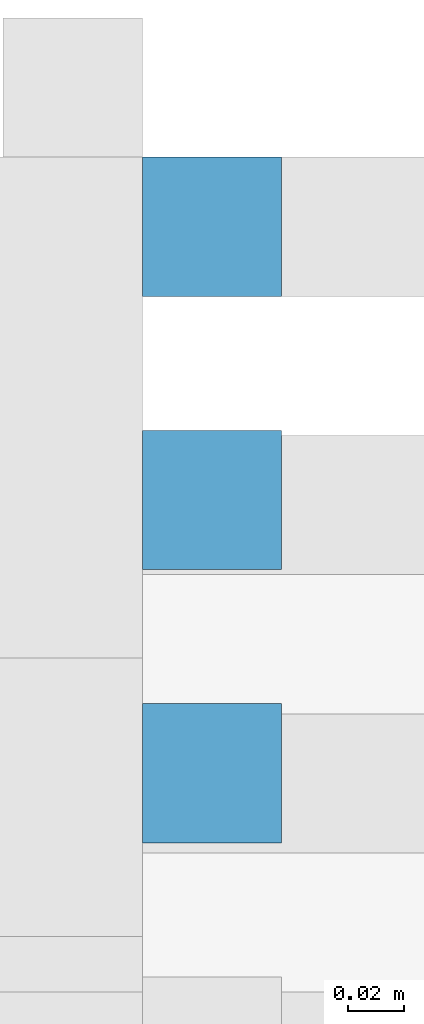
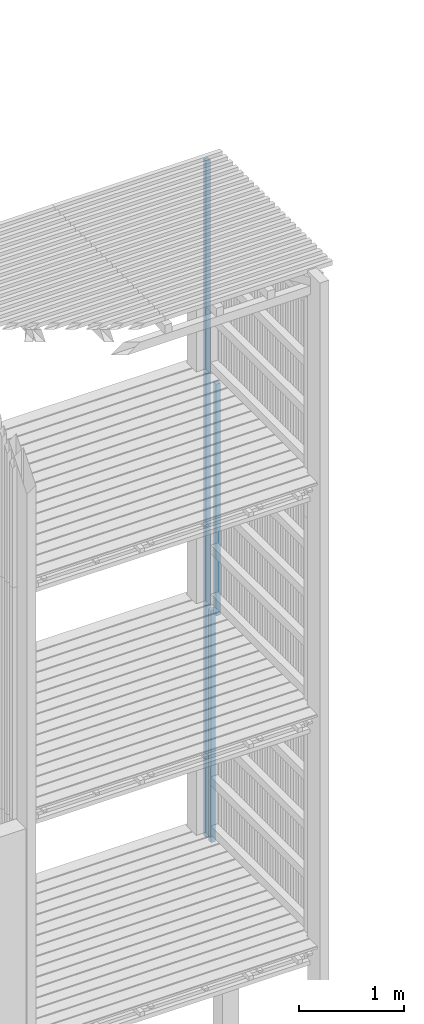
# One storey, part 83 of 182: 5 beams.
"""IFC2X3 building model written with IfcOpenShell, lengths in metres."""

from ifc_helpers import new_model, si_unit, frame, origin, place, context, project, spatial, faceted_brep, element, save


model = new_model("IFC2X3")

# Units and contexts
model_context = context("Model", 3, precision=1e-06, world=origin())
ifc_project = project(units=[si_unit("LENGTHUNIT", "METRE"), si_unit("PLANEANGLEUNIT", "RADIAN")], contexts=[model_context])

# Site, building, storey
site = spatial("IfcSite", under=ifc_project, CompositionType="ELEMENT")
building = spatial("IfcBuilding", under=site, CompositionType="ELEMENT")
storey = spatial("IfcBuildingStorey", under=building, Name="vs", CompositionType="ELEMENT", Elevation=-0.85)

# Beams
placement = place(None, origin())
beam_1_placement = place(placement, frame((26.399999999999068, 12.845077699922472, 2.575000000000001), z_axis=(-1.0, 0.0, 0.0), x_axis=(0.0, 0.0, 1.0)))
element("IfcBeam", 1, at=beam_1_placement, inside=storey, Name="Bardage", context=model_context, shape_type="Brep", body=[
    faceted_brep([(0.0, -0.025000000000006, 0.024999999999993), (0.0, 0.024999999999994, 0.024999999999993), (0.0, 0.024999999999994, -0.025000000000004), (0.0, -0.025000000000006, -0.025000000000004), (2.699961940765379, 0.024999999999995, -0.025000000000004), (2.699961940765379, 0.024999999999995, 0.024999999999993), (2.699961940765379, -0.025000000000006, 0.024999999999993), (2.699961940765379, -0.025000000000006, -0.025000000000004), (0.0, -0.025000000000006, -0.025000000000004), (0.0, 0.024999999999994, -0.025000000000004), (2.699961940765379, 0.024999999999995, -0.025000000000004), (2.699961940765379, -0.025000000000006, -0.025000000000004), (2.699961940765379, 0.024999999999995, -0.025000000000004), (0.0, 0.024999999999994, -0.025000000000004), (0.0, 0.024999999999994, 0.024999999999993), (2.699961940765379, 0.024999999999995, 0.024999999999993), (2.699961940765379, 0.024999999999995, 0.024999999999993), (0.0, 0.024999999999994, 0.024999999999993), (0.0, -0.025000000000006, 0.024999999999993), (2.699961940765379, -0.025000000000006, 0.024999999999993), (2.699961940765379, -0.025000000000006, 0.024999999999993), (0.0, -0.025000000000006, 0.024999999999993), (0.0, -0.025000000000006, -0.025000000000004), (2.699961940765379, -0.025000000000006, -0.025000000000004)], [[[0, 1, 2, 3]], [[4, 5, 6, 7]], [[8, 9, 10, 11]], [[12, 13, 14, 15]], [[16, 17, 18, 19]], [[20, 21, 22, 23]]]),
])
beam_2_placement = place(placement, frame((26.399999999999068, 12.74689588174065, 2.575000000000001), z_axis=(-1.0, 0.0, 0.0), x_axis=(0.0, 0.0, 1.0)))
element("IfcBeam", 2, at=beam_2_placement, inside=storey, Name="Bardage", context=model_context, shape_type="Brep", body=[
    faceted_brep([(0.0, -0.025000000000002, 0.024999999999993), (0.0, 0.024999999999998, 0.024999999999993), (0.0, 0.024999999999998, -0.025000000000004), (0.0, -0.025000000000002, -0.025000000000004), (2.699961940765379, 0.025000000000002, -0.025000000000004), (2.699961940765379, 0.025000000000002, 0.024999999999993), (2.699961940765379, -0.025000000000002, 0.024999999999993), (2.699961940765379, -0.025000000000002, -0.025000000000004), (0.0, -0.025000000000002, -0.025000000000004), (0.0, 0.024999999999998, -0.025000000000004), (2.699961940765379, 0.025000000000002, -0.025000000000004), (2.699961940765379, -0.025000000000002, -0.025000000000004), (2.699961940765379, 0.025000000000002, -0.025000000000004), (0.0, 0.024999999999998, -0.025000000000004), (0.0, 0.024999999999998, 0.024999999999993), (2.699961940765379, 0.025000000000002, 0.024999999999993), (2.699961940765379, 0.025000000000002, 0.024999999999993), (0.0, 0.024999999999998, 0.024999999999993), (0.0, -0.025000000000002, 0.024999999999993), (2.699961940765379, -0.025000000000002, 0.024999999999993), (2.699961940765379, -0.025000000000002, 0.024999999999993), (0.0, -0.025000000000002, 0.024999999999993), (0.0, -0.025000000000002, -0.025000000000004), (2.699961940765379, -0.025000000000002, -0.025000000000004)], [[[0, 1, 2, 3]], [[4, 5, 6, 7]], [[8, 9, 10, 11]], [[12, 13, 14, 15]], [[16, 17, 18, 19]], [[20, 21, 22, 23]]]),
])
beam_3_placement = place(placement, frame((26.399999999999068, 12.648714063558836, 5.274999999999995), z_axis=(-1.0, 0.0, 0.0), x_axis=(0.0, 0.0, 1.0)))
element("IfcBeam", 3, at=beam_3_placement, inside=storey, Name="Bardage", context=model_context, shape_type="Brep", body=[
    faceted_brep([(1e-15, -0.025000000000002, 0.024999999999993), (1e-15, 0.024999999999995, 0.024999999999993), (1e-15, 0.024999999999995, -0.025000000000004), (1e-15, -0.025000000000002, -0.025000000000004), (2.699999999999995, -0.025000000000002, -0.025000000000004), (2.699999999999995, 0.024999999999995, -0.025000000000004), (2.699999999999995, 0.024999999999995, 0.024999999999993), (2.699999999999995, -0.025000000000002, 0.024999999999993), (1e-15, -0.025000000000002, 0.024999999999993), (1e-15, -0.025000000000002, -0.025000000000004), (2.699999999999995, -0.025000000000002, -0.025000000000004), (2.699999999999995, -0.025000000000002, 0.024999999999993), (2.699999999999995, -0.025000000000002, -0.025000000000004), (1e-15, -0.025000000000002, -0.025000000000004), (1e-15, 0.024999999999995, -0.025000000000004), (2.699999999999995, 0.024999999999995, -0.025000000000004), (2.699999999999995, 0.024999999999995, -0.025000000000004), (1e-15, 0.024999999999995, -0.025000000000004), (1e-15, 0.024999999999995, 0.024999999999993), (2.699999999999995, 0.024999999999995, 0.024999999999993), (2.699999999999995, 0.024999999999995, 0.024999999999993), (1e-15, 0.024999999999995, 0.024999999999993), (1e-15, -0.025000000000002, 0.024999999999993), (2.699999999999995, -0.025000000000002, 0.024999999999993)], [[[0, 1, 2, 3]], [[4, 5, 6, 7]], [[8, 9, 10, 11]], [[12, 13, 14, 15]], [[16, 17, 18, 19]], [[20, 21, 22, 23]]]),
])
beam_4_placement = place(placement, frame((26.399999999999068, 12.845077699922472, 5.274999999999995), z_axis=(-1.0, 0.0, 0.0), x_axis=(0.0, 0.0, 1.0)))
element("IfcBeam", 4, at=beam_4_placement, inside=storey, Name="Bardage", context=model_context, shape_type="Brep", body=[
    faceted_brep([(1e-15, -0.025000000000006, 0.024999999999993), (1e-15, 0.024999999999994, 0.024999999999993), (1e-15, 0.024999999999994, -0.025000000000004), (1e-15, -0.025000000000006, -0.025000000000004), (2.699999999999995, -0.025000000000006, -0.025000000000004), (2.699999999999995, 0.024999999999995, -0.025000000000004), (2.699999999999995, 0.024999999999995, 0.024999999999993), (2.699999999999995, -0.025000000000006, 0.024999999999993), (1e-15, -0.025000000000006, 0.024999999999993), (1e-15, -0.025000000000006, -0.025000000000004), (2.699999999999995, -0.025000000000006, -0.025000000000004), (2.699999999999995, -0.025000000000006, 0.024999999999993), (2.699999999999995, -0.025000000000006, -0.025000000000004), (1e-15, -0.025000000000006, -0.025000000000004), (1e-15, 0.024999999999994, -0.025000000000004), (2.699999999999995, 0.024999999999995, -0.025000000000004), (2.699999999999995, 0.024999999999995, -0.025000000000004), (1e-15, 0.024999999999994, -0.025000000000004), (1e-15, 0.024999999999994, 0.024999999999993), (2.699999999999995, 0.024999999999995, 0.024999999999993), (2.699999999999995, 0.024999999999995, 0.024999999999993), (1e-15, 0.024999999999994, 0.024999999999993), (1e-15, -0.025000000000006, 0.024999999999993), (2.699999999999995, -0.025000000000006, 0.024999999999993)], [[[0, 1, 2, 3]], [[4, 5, 6, 7]], [[8, 9, 10, 11]], [[12, 13, 14, 15]], [[16, 17, 18, 19]], [[20, 21, 22, 23]]]),
])
beam_5_placement = place(placement, frame((26.399999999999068, 12.845077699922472, 7.974999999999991), z_axis=(-1.0, 0.0, 0.0), x_axis=(0.0, 0.0, 1.0)))
element("IfcBeam", 5, at=beam_5_placement, inside=storey, Name="Bardage", context=model_context, shape_type="Brep", body=[
    faceted_brep([(2.479999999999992, -0.025000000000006, 0.024999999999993), (2.479999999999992, -0.025000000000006, -0.025000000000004), (2.479999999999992, 0.024999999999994, -0.025000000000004), (2.479999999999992, 0.024999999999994, 0.024999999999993), (0.0, 0.024999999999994, 0.024999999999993), (0.0, -0.025000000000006, 0.024999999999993), (2.479999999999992, -0.025000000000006, 0.024999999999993), (2.479999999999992, 0.024999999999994, 0.024999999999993), (0.0, -0.025000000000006, 0.024999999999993), (0.0, 0.024999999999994, 0.024999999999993), (0.0, 0.024999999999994, -0.025000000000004), (0.0, -0.025000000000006, -0.025000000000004), (0.0, 0.024999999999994, -0.025000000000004), (0.0, 0.024999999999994, 0.024999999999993), (2.479999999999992, 0.024999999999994, 0.024999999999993), (2.479999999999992, 0.024999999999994, -0.025000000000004), (0.0, -0.025000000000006, -0.025000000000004), (0.0, 0.024999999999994, -0.025000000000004), (2.479999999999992, 0.024999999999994, -0.025000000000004), (2.479999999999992, -0.025000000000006, -0.025000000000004), (2.479999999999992, -0.025000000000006, 0.024999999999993), (0.0, -0.025000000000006, 0.024999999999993), (0.0, -0.025000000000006, -0.025000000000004), (2.479999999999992, -0.025000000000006, -0.025000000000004)], [[[0, 1, 2, 3]], [[4, 5, 6, 7]], [[8, 9, 10, 11]], [[12, 13, 14, 15]], [[16, 17, 18, 19]], [[20, 21, 22, 23]]]),
])

save(model, "model.ifc")
